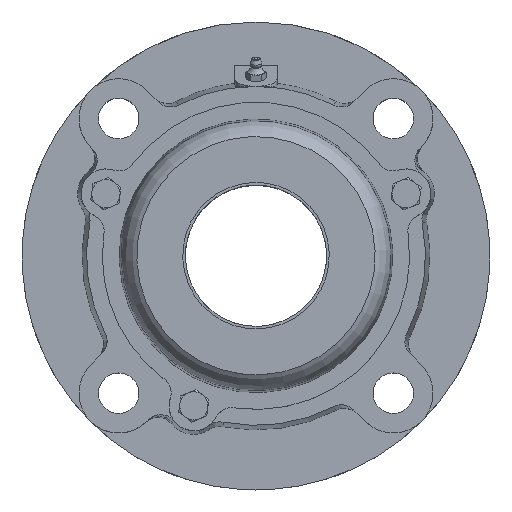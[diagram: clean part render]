
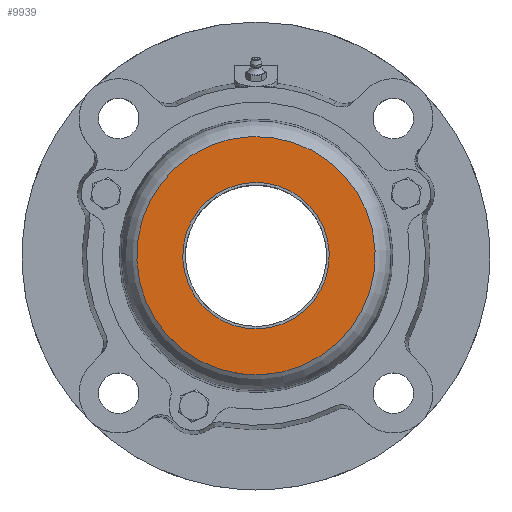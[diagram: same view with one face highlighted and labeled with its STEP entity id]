
A CAD part, top view. The second image highlights one B-rep face of the part: STEP entity #9939.
In plain terms, the highlighted planar face has unit normal (0, 0, 1).
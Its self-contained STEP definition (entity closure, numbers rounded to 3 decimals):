
#9204=CARTESIAN_POINT('',(41.5,0.,55.5));
#9205=VERTEX_POINT('',#9204);
#9206=CARTESIAN_POINT('',(0.0,0.0,55.5));
#9207=DIRECTION('',(0.0,0.0,-1.0));
#9208=DIRECTION('',(-1.0,0.0,0.0));
#9209=AXIS2_PLACEMENT_3D('',#9206,#9207,#9208);
#9210=CIRCLE('',#9209,41.5);
#9211=EDGE_CURVE('',#9205,#9205,#9210,.T.);
#9844=CARTESIAN_POINT('',(0.0,67.5,55.5));
#9845=VERTEX_POINT('',#9844);
#9846=CARTESIAN_POINT('',(0.0,0.,55.5));
#9847=DIRECTION('',(0.0,0.0,1.0));
#9848=DIRECTION('',(0.0,1.0,0.0));
#9849=AXIS2_PLACEMENT_3D('',#9846,#9847,#9848);
#9850=CIRCLE('',#9849,67.5);
#9851=EDGE_CURVE('',#9845,#9845,#9850,.T.);
#9928=CARTESIAN_POINT('',(0.,93.854,55.5));
#9929=DIRECTION('',(0.0,0.0,1.0));
#9930=DIRECTION('',(1.0,0.0,0.0));
#9931=AXIS2_PLACEMENT_3D('',#9928,#9929,#9930);
#9932=PLANE('',#9931);
#9933=ORIENTED_EDGE('',*,*,#9851,.T.);
#9934=EDGE_LOOP('',(#9933));
#9935=FACE_OUTER_BOUND('',#9934,.T.);
#9936=ORIENTED_EDGE('',*,*,#9211,.T.);
#9937=EDGE_LOOP('',(#9936));
#9938=FACE_BOUND('',#9937,.T.);
#9939=ADVANCED_FACE('',(#9935,#9938),#9932,.T.);
